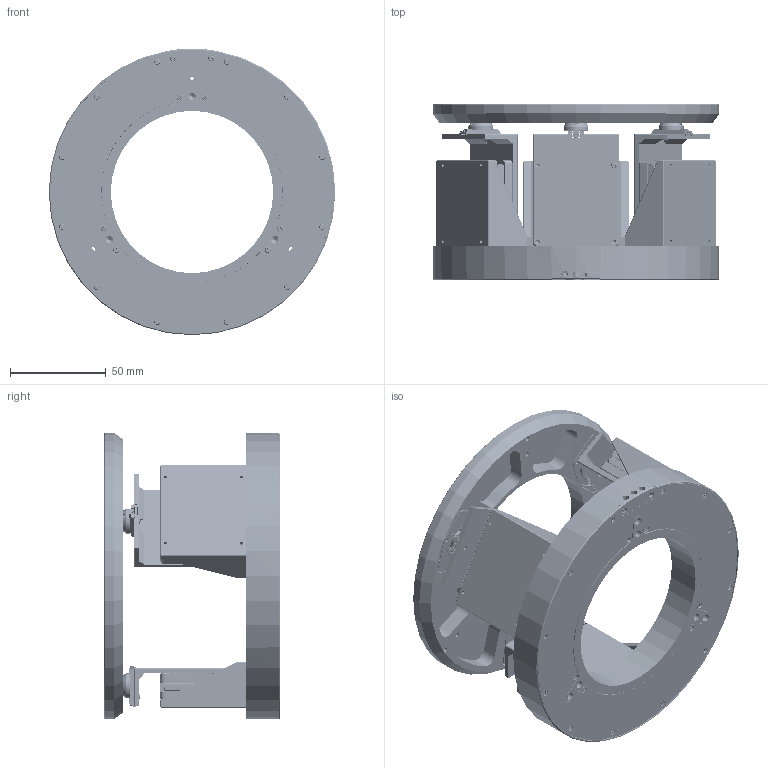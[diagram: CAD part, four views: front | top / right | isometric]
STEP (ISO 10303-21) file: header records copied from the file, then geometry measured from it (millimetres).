
FILE_DESCRIPTION (( 'STEP AP203' ), '1' );
FILE_NAME ('GO Tip-Tilt_Ver3,3.STEP', '2023-01-18T12:31:34', ( '' ), ( '' ), 'SwSTEP 2.0', 'SolidWorks 2021', '' );
FILE_SCHEMA (( 'CONFIG_CONTROL_DESIGN' ));
Length unit declared in the file: millimetre
Products named in the file (1): GO Tip-Tilt_Ver3,3
Bounding box: 150 x 92 x 150 mm (x, y, z)
Volume: 351973.5 mm3; surface area: 228053.6 mm2
Topology: 102 solids, 102 shells, 5972 faces, 14449 edges, 8843 vertices
Faces by surface type: plane 2969, cylinder 2020, cone 838, torus 136, sphere 6, bspline 3
Entity records: 173159 total; most frequent: CARTESIAN_POINT 31853, DIRECTION 30555, ORIENTED_EDGE 28120, EDGE_CURVE 14060, AXIS2_PLACEMENT_3D 11083, VERTEX_POINT 8786, LINE 8389, VECTOR 8389
